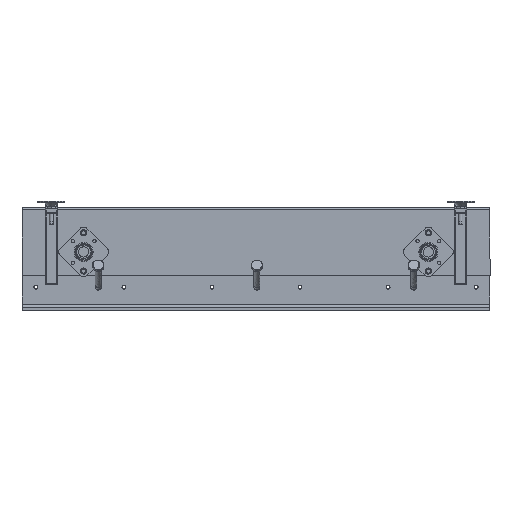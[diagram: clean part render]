
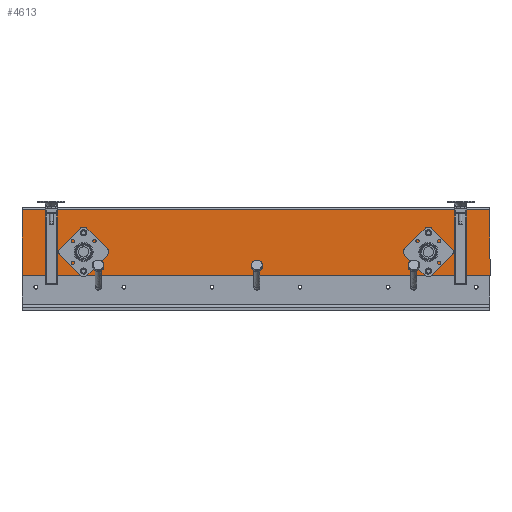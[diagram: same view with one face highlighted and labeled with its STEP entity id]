
A CAD part, left-side view. The second image highlights one B-rep face of the part: STEP entity #4613.
In plain terms, the highlighted planar face has unit normal (-1, 0, 0) as drawn and (0, 0, -1) by its records, which use the part's own axes.
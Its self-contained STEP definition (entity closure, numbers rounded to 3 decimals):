
#250=FACE_BOUND('',#936,.T.);
#251=FACE_BOUND('',#937,.T.);
#252=FACE_BOUND('',#938,.T.);
#253=FACE_BOUND('',#939,.T.);
#254=FACE_BOUND('',#940,.T.);
#255=FACE_BOUND('',#941,.T.);
#387=PLANE('',#5121);
#613=FACE_OUTER_BOUND('',#935,.T.);
#935=EDGE_LOOP('',(#3622,#3623,#3624,#3625));
#936=EDGE_LOOP('',(#3626));
#937=EDGE_LOOP('',(#3627));
#938=EDGE_LOOP('',(#3628));
#939=EDGE_LOOP('',(#3629));
#940=EDGE_LOOP('',(#3630));
#941=EDGE_LOOP('',(#3631));
#1313=LINE('',#7483,#1630);
#1328=LINE('',#7519,#1645);
#1331=LINE('',#7525,#1648);
#1332=LINE('',#7526,#1649);
#1630=VECTOR('',#6075,10.);
#1645=VECTOR('',#6114,10.);
#1648=VECTOR('',#6119,10.);
#1649=VECTOR('',#6120,10.);
#1946=CIRCLE('',#5090,1.5);
#1948=CIRCLE('',#5093,1.5);
#1950=CIRCLE('',#5096,1.5);
#1952=CIRCLE('',#5099,1.5);
#1954=CIRCLE('',#5102,11.);
#1956=CIRCLE('',#5105,11.);
#2217=VERTEX_POINT('',#7447);
#2219=VERTEX_POINT('',#7452);
#2221=VERTEX_POINT('',#7457);
#2223=VERTEX_POINT('',#7462);
#2225=VERTEX_POINT('',#7467);
#2227=VERTEX_POINT('',#7472);
#2231=VERTEX_POINT('',#7480);
#2232=VERTEX_POINT('',#7482);
#2241=VERTEX_POINT('',#7518);
#2243=VERTEX_POINT('',#7524);
#2724=EDGE_CURVE('',#2217,#2217,#1946,.T.);
#2726=EDGE_CURVE('',#2219,#2219,#1948,.T.);
#2728=EDGE_CURVE('',#2221,#2221,#1950,.T.);
#2730=EDGE_CURVE('',#2223,#2223,#1952,.T.);
#2732=EDGE_CURVE('',#2225,#2225,#1954,.T.);
#2734=EDGE_CURVE('',#2227,#2227,#1956,.T.);
#2738=EDGE_CURVE('',#2232,#2231,#1313,.T.);
#2756=EDGE_CURVE('',#2241,#2232,#1328,.T.);
#2759=EDGE_CURVE('',#2231,#2243,#1331,.T.);
#2760=EDGE_CURVE('',#2243,#2241,#1332,.T.);
#3622=ORIENTED_EDGE('',*,*,#2738,.T.);
#3623=ORIENTED_EDGE('',*,*,#2759,.T.);
#3624=ORIENTED_EDGE('',*,*,#2760,.T.);
#3625=ORIENTED_EDGE('',*,*,#2756,.T.);
#3626=ORIENTED_EDGE('',*,*,#2724,.T.);
#3627=ORIENTED_EDGE('',*,*,#2726,.T.);
#3628=ORIENTED_EDGE('',*,*,#2728,.T.);
#3629=ORIENTED_EDGE('',*,*,#2730,.T.);
#3630=ORIENTED_EDGE('',*,*,#2732,.T.);
#3631=ORIENTED_EDGE('',*,*,#2734,.T.);
#4613=ADVANCED_FACE('',(#613,#250,#251,#252,#253,#254,#255),#387,.F.);
#5090=AXIS2_PLACEMENT_3D('',#7448,#6036,#6037);
#5093=AXIS2_PLACEMENT_3D('',#7453,#6042,#6043);
#5096=AXIS2_PLACEMENT_3D('',#7458,#6048,#6049);
#5099=AXIS2_PLACEMENT_3D('',#7463,#6054,#6055);
#5102=AXIS2_PLACEMENT_3D('',#7468,#6060,#6061);
#5105=AXIS2_PLACEMENT_3D('',#7473,#6066,#6067);
#5121=AXIS2_PLACEMENT_3D('',#7523,#6117,#6118);
#6036=DIRECTION('center_axis',(0.,0.,1.));
#6037=DIRECTION('ref_axis',(-1.,0.,0.));
#6042=DIRECTION('center_axis',(0.,0.,1.));
#6043=DIRECTION('ref_axis',(-1.,0.,0.));
#6048=DIRECTION('center_axis',(0.,0.,1.));
#6049=DIRECTION('ref_axis',(-1.,0.,0.));
#6054=DIRECTION('center_axis',(0.,0.,1.));
#6055=DIRECTION('ref_axis',(-1.,0.,0.));
#6060=DIRECTION('center_axis',(0.,0.,1.));
#6061=DIRECTION('ref_axis',(-1.,0.,0.));
#6066=DIRECTION('center_axis',(0.,0.,1.));
#6067=DIRECTION('ref_axis',(-1.,0.,0.));
#6075=DIRECTION('',(1.,0.,0.));
#6114=DIRECTION('',(0.,1.,0.));
#6117=DIRECTION('center_axis',(0.,0.,1.));
#6118=DIRECTION('ref_axis',(1.,0.,0.));
#6119=DIRECTION('',(0.,-1.,0.));
#6120=DIRECTION('',(-1.,0.,0.));
#7447=CARTESIAN_POINT('',(106.5,-42.5,0.));
#7448=CARTESIAN_POINT('Origin',(105.,-42.5,0.));
#7452=CARTESIAN_POINT('',(693.5,-107.5,0.));
#7453=CARTESIAN_POINT('Origin',(692.,-107.5,0.));
#7457=CARTESIAN_POINT('',(693.5,-42.5,0.));
#7458=CARTESIAN_POINT('Origin',(692.,-42.5,0.));
#7462=CARTESIAN_POINT('',(106.5,-107.5,0.));
#7463=CARTESIAN_POINT('Origin',(105.,-107.5,0.));
#7467=CARTESIAN_POINT('',(703.,-75.,0.));
#7468=CARTESIAN_POINT('Origin',(692.,-75.,0.));
#7472=CARTESIAN_POINT('',(116.,-75.,0.));
#7473=CARTESIAN_POINT('Origin',(105.,-75.,0.));
#7480=CARTESIAN_POINT('',(797.,-3.,0.));
#7482=CARTESIAN_POINT('',(0.,-3.,0.));
#7483=CARTESIAN_POINT('',(199.25,-3.,0.));
#7518=CARTESIAN_POINT('',(0.,-115.,0.));
#7519=CARTESIAN_POINT('',(0.,-115.,0.));
#7523=CARTESIAN_POINT('Origin',(398.5,-57.5,0.));
#7524=CARTESIAN_POINT('',(797.,-115.,0.));
#7525=CARTESIAN_POINT('',(797.,0.,0.));
#7526=CARTESIAN_POINT('',(797.,-115.,0.));
